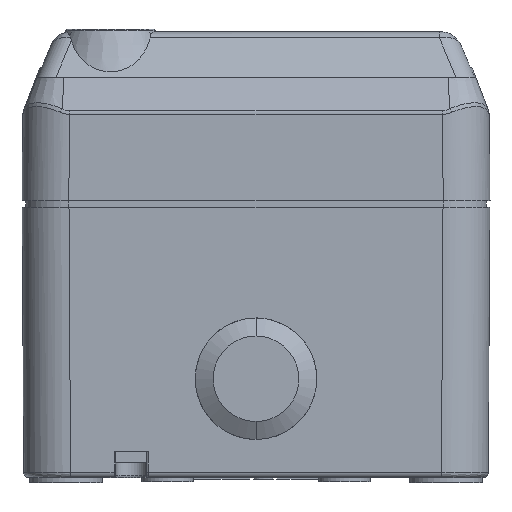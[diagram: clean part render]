
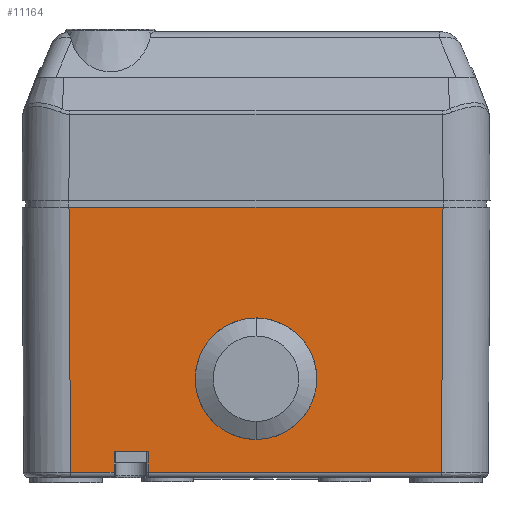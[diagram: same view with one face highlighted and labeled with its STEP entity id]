
A CAD part, front view. The second image highlights one B-rep face of the part: STEP entity #11164.
In plain terms, the highlighted planar face has unit normal (0, -1, -0.006).
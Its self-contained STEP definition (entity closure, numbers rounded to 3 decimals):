
#1779=DIRECTION('',(0.,-0.006,1.));
#1780=VECTOR('',#1779,4.006);
#1781=CARTESIAN_POINT('',(-20.7,-46.166,0.994));
#1782=LINE('1104',#1781,#1780);
#1786=DIRECTION('',(0.,0.006,-1.));
#1787=VECTOR('',#1786,4.006);
#1788=CARTESIAN_POINT('',(-27.3,-46.189,5.));
#1789=LINE('1117',#1788,#1787);
#1793=DIRECTION('',(-1.,0.,0.));
#1794=VECTOR('',#1793,8.366);
#1795=CARTESIAN_POINT('',(-27.3,-46.166,0.994));
#1796=LINE('1140',#1795,#1794);
#1800=DIRECTION('',(0.006,0.006,-1.));
#1801=VECTOR('',#1800,51.008);
#1802=CARTESIAN_POINT('',(-35.963,-46.463,52.));
#1803=LINE('1088',#1802,#1801);
#1807=DIRECTION('',(-0.006,0.006,-1.));
#1808=VECTOR('',#1807,51.008);
#1809=CARTESIAN_POINT('',(35.963,-46.463,52.));
#1810=LINE('1095',#1809,#1808);
#1814=DIRECTION('',(-1.,0.,0.));
#1815=VECTOR('',#1814,56.366);
#1816=CARTESIAN_POINT('',(35.666,-46.166,
0.994));
#1817=LINE('1145',#1816,#1815);
#1821=DIRECTION('',(1.,0.,0.));
#1822=VECTOR('',#1821,6.6);
#1823=CARTESIAN_POINT('',(-27.3,-46.189,5.));
#1824=LINE('1164',#1823,#1822);
#2362=CARTESIAN_POINT('',(35.666,-46.166,
0.994));
#2415=CARTESIAN_POINT('',(35.963,-46.463,52.));
#2420=DIRECTION('',(1.,0.,0.));
#2421=VECTOR('',#2420,71.926);
#2422=CARTESIAN_POINT('',(-35.963,-46.463,52.));
#2423=LINE('1074',#2422,#2421);
#2427=CARTESIAN_POINT('',(-35.963,-46.463,52.));
#2516=CARTESIAN_POINT('',(-35.666,-46.166,
0.994));
#5781=CARTESIAN_POINT('',(0.,-46.339,30.688));
#5782=CARTESIAN_POINT('',(-1.377,-46.339,30.688));
#5783=CARTESIAN_POINT('',(-3.608,-46.337,
30.31));
#5784=CARTESIAN_POINT('',(-6.434,-46.328,
28.857));
#5785=CARTESIAN_POINT('',(-8.324,-46.319,
27.325));
#5786=CARTESIAN_POINT('',(-9.857,-46.308,
25.434));
#5787=CARTESIAN_POINT('',(-10.946,-46.296,
23.315));
#5788=CARTESIAN_POINT('',(-11.462,-46.285,
21.485));
#5789=CARTESIAN_POINT('',(-11.658,-46.277,
20.044));
#5790=CARTESIAN_POINT('',(-11.703,-46.271,19.));
#5791=CARTESIAN_POINT('',(-11.658,-46.265,
17.956));
#5792=CARTESIAN_POINT('',(-11.462,-46.256,
16.515));
#5793=CARTESIAN_POINT('',(-10.946,-46.246,
14.685));
#5794=CARTESIAN_POINT('',(-9.857,-46.233,
12.566));
#5795=CARTESIAN_POINT('',(-8.324,-46.222,
10.675));
#5796=CARTESIAN_POINT('',(-6.434,-46.213,
9.143));
#5797=CARTESIAN_POINT('',(-3.608,-46.205,
7.69));
#5798=CARTESIAN_POINT('',(-1.377,-46.203,7.312));
#5799=CARTESIAN_POINT('',(0.,-46.203,7.312));
#5811=CARTESIAN_POINT('',(0.,-46.203,7.312));
#5812=CARTESIAN_POINT('',(1.377,-46.203,7.312));
#5813=CARTESIAN_POINT('',(3.608,-46.205,7.69));
#5814=CARTESIAN_POINT('',(6.434,-46.213,9.143));
#5815=CARTESIAN_POINT('',(8.324,-46.222,10.675));
#5816=CARTESIAN_POINT('',(9.857,-46.233,12.566));
#5817=CARTESIAN_POINT('',(10.946,-46.246,14.685));
#5818=CARTESIAN_POINT('',(11.462,-46.256,16.515));
#5819=CARTESIAN_POINT('',(11.658,-46.265,17.956));
#5820=CARTESIAN_POINT('',(11.703,-46.271,19.));
#5821=CARTESIAN_POINT('',(11.658,-46.277,20.044));
#5822=CARTESIAN_POINT('',(11.462,-46.285,21.485));
#5823=CARTESIAN_POINT('',(10.946,-46.296,23.315));
#5824=CARTESIAN_POINT('',(9.857,-46.308,25.434));
#5825=CARTESIAN_POINT('',(8.324,-46.319,27.325));
#5826=CARTESIAN_POINT('',(6.434,-46.328,28.857));
#5827=CARTESIAN_POINT('',(3.608,-46.337,30.31));
#5828=CARTESIAN_POINT('',(1.377,-46.339,30.688));
#5829=CARTESIAN_POINT('',(0.,-46.339,30.688));
#9997=CARTESIAN_POINT('',(0.,-46.339,30.688));
#9998=VERTEX_POINT('',#9997);
#9999=CARTESIAN_POINT('',(0.,-46.203,7.312));
#10000=VERTEX_POINT('',#9999);
#10017=VERTEX_POINT('',#2427);
#10020=VERTEX_POINT('',#2415);
#10080=VERTEX_POINT('',#2362);
#10089=VERTEX_POINT('',#2516);
#10097=CARTESIAN_POINT('',(-20.7,-46.166,0.994));
#10098=CARTESIAN_POINT('',(-20.7,-46.189,5.));
#10099=VERTEX_POINT('',#10097);
#10100=VERTEX_POINT('',#10098);
#10123=CARTESIAN_POINT('',(-27.3,-46.166,0.994));
#10124=VERTEX_POINT('',#10123);
#10127=CARTESIAN_POINT('',(-27.3,-46.189,5.));
#10128=VERTEX_POINT('',#10127);
#11136=CARTESIAN_POINT('',(-47.2,-46.5,58.4));
#11137=DIRECTION('',(0.,-1.,-0.006));
#11138=DIRECTION('',(1.,0.,0.));
#11139=AXIS2_PLACEMENT_3D('',#11136,#11137,#11138);
#11140=PLANE('251',#11139);
#11141=ORIENTED_EDGE('1104',*,*,#11119,.T.);
#11143=ORIENTED_EDGE('1164',*,*,#11142,.F.);
#11145=ORIENTED_EDGE('1117',*,*,#11144,.T.);
#11147=ORIENTED_EDGE('1140',*,*,#11146,.T.);
#11149=ORIENTED_EDGE('1088',*,*,#11148,.F.);
#11151=ORIENTED_EDGE('1074',*,*,#11150,.T.);
#11153=ORIENTED_EDGE('1095',*,*,#11152,.T.);
#11155=ORIENTED_EDGE('1145',*,*,#11154,.T.);
#11156=EDGE_LOOP('251',(#11141,#11143,#11145,#11147,#11149,#11151,#11153,
#11155));
#11157=FACE_OUTER_BOUND('251',#11156,.F.);
#11159=ORIENTED_EDGE('1070',*,*,#11158,.T.);
#11161=ORIENTED_EDGE('1071',*,*,#11160,.T.);
#11162=EDGE_LOOP('251',(#11159,#11161));
#11163=FACE_BOUND('251',#11162,.F.);
#5800=B_SPLINE_CURVE_WITH_KNOTS('1070',3,(#5781,#5782,#5783,#5784,#5785,#5786,
#5787,#5788,#5789,#5790,#5791,#5792,#5793,#5794,#5795,#5796,#5797,#5798,#5799),
.UNSPECIFIED.,.F.,.F.,(4,1,1,1,1,1,1,1,1,1,1,1,1,1,1,1,4),(0.,0.125,
0.188,0.25,0.313,0.375,0.438,0.469,0.5,0.531,0.563,
0.625,0.688,0.75,0.813,0.875,1.),.UNSPECIFIED.);
#5830=B_SPLINE_CURVE_WITH_KNOTS('1071',3,(#5811,#5812,#5813,#5814,#5815,#5816,
#5817,#5818,#5819,#5820,#5821,#5822,#5823,#5824,#5825,#5826,#5827,#5828,#5829),
.UNSPECIFIED.,.F.,.F.,(4,1,1,1,1,1,1,1,1,1,1,1,1,1,1,1,4),(0.,0.125,
0.188,0.25,0.313,0.375,0.438,0.469,0.5,0.531,0.563,
0.625,0.688,0.75,0.813,0.875,1.),.UNSPECIFIED.);
#11119=EDGE_CURVE('1104',#10099,#10100,#1782,.T.);
#11142=EDGE_CURVE('1164',#10128,#10100,#1824,.T.);
#11144=EDGE_CURVE('1117',#10128,#10124,#1789,.T.);
#11146=EDGE_CURVE('1140',#10124,#10089,#1796,.T.);
#11148=EDGE_CURVE('1088',#10017,#10089,#1803,.T.);
#11150=EDGE_CURVE('1074',#10017,#10020,#2423,.T.);
#11152=EDGE_CURVE('1095',#10020,#10080,#1810,.T.);
#11154=EDGE_CURVE('1145',#10080,#10099,#1817,.T.);
#11158=EDGE_CURVE('1070',#9998,#10000,#5800,.T.);
#11160=EDGE_CURVE('1071',#10000,#9998,#5830,.T.);
#11164=ADVANCED_FACE('251',(#11157,#11163),#11140,.T.);
